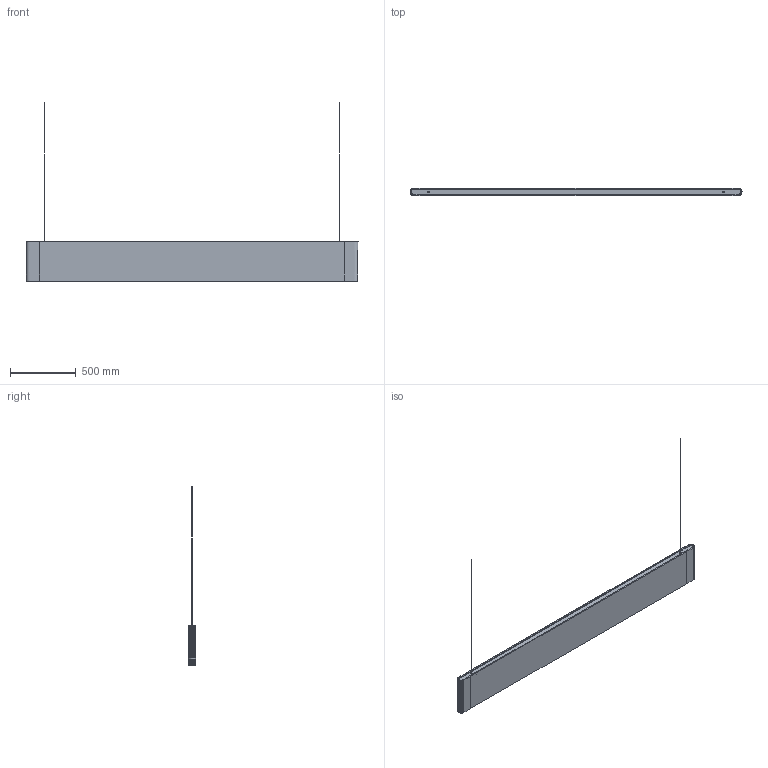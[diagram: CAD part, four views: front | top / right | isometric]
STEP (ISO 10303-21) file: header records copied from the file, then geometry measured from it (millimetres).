
FILE_DESCRIPTION(/* description */ (''),/* implementation_level */ '2;1');
FILE_NAME(/* name */ 'Line baffle 2520 STEP',/* time_stamp */ '2024-11-20T11:29:59+01:00',/* author */ (''),/* organization */ (''),/* preprocessor_version */ 'ST-DEVELOPER v16.5',/* originating_system */ 'Rhino 7.37',/* authorisation */ '');
FILE_SCHEMA (('CONFIG_CONTROL_DESIGN'));
Length unit declared in the file: millimetre
Products named in the file (1): Document
Bounding box: 2521.81 x 56 x 1353.24 mm (x, y, z)
Volume: 15321631.9 mm3; surface area: 3712008.3 mm2
Topology: 10 solids, 10 shells, 192 faces, 484 edges, 316 vertices
Faces by surface type: plane 73, bspline 61, cylinder 58
Entity records: 8402 total; most frequent: CARTESIAN_POINT 5107, ORIENTED_EDGE 968, EDGE_CURVE 484, B_SPLINE_CURVE_WITH_KNOTS 372, VERTEX_POINT 316, EDGE_LOOP 202, ADVANCED_FACE 192, FACE_OUTER_BOUND 192
